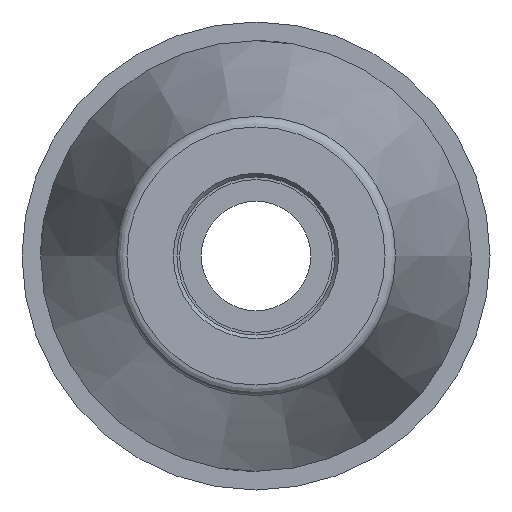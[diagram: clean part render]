
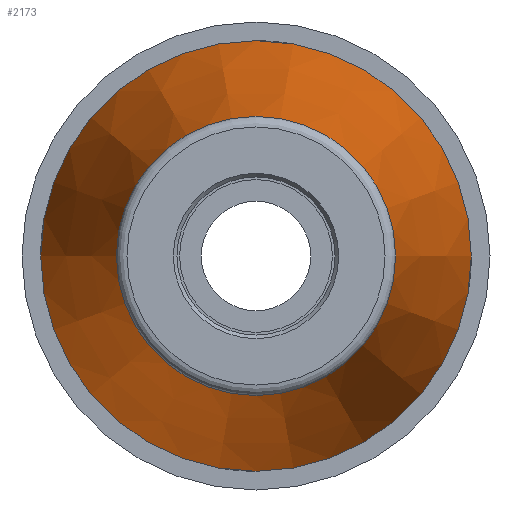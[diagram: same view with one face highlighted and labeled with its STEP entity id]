
A CAD part, left-side view. The second image highlights one B-rep face of the part: STEP entity #2173.
In plain terms, the highlighted conical face has half-angle 13 degrees and reference radius 20.361 mm.
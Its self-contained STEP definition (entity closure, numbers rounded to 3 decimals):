
#390=CONICAL_SURFACE('',#2402,20.361,13.);
#438=FACE_BOUND('',#687,.T.);
#550=FACE_OUTER_BOUND('',#686,.T.);
#686=EDGE_LOOP('',(#1808));
#687=EDGE_LOOP('',(#1809));
#828=CIRCLE('',#2401,16.106);
#829=CIRCLE('',#2403,24.84);
#1019=VERTEX_POINT('',#4295);
#1020=VERTEX_POINT('',#4298);
#1300=EDGE_CURVE('',#1019,#1019,#828,.T.);
#1301=EDGE_CURVE('',#1020,#1020,#829,.T.);
#1808=ORIENTED_EDGE('',*,*,#1301,.F.);
#1809=ORIENTED_EDGE('',*,*,#1300,.F.);
#2173=ADVANCED_FACE('',(#550,#438),#390,.T.);
#2401=AXIS2_PLACEMENT_3D('',#4296,#2945,#2946);
#2402=AXIS2_PLACEMENT_3D('',#4297,#2947,#2948);
#2403=AXIS2_PLACEMENT_3D('',#4299,#2949,#2950);
#2945=DIRECTION('center_axis',(-1.,0.,0.));
#2946=DIRECTION('ref_axis',(0.,-1.,0.));
#2947=DIRECTION('center_axis',(1.,0.,0.));
#2948=DIRECTION('ref_axis',(0.,1.,0.));
#2949=DIRECTION('center_axis',(1.,0.,0.));
#2950=DIRECTION('ref_axis',(0.,0.,-1.));
#4295=CARTESIAN_POINT('',(-67.531,16.106,0.));
#4296=CARTESIAN_POINT('Origin',(-67.531,0.,
0.));
#4297=CARTESIAN_POINT('Origin',(-49.1,0.,0.));
#4298=CARTESIAN_POINT('',(-29.7,24.84,0.));
#4299=CARTESIAN_POINT('Origin',(-29.7,0.,0.));
